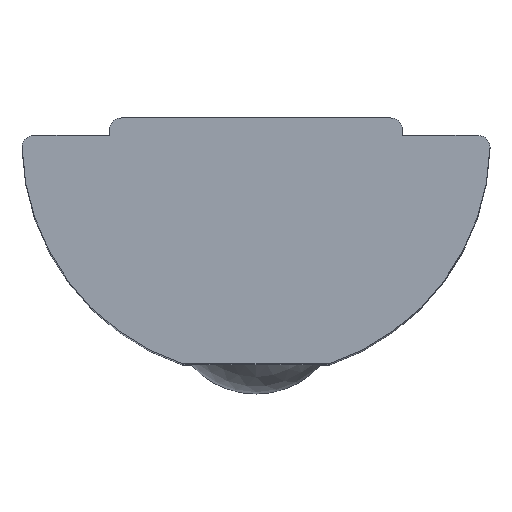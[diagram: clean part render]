
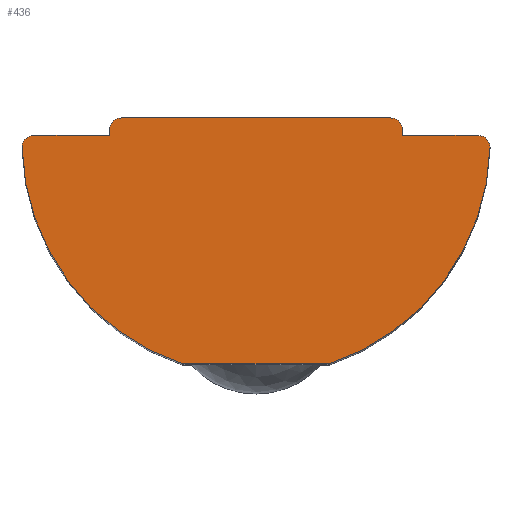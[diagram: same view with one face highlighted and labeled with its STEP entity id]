
A CAD part, top view. The second image highlights one B-rep face of the part: STEP entity #436.
In plain terms, the highlighted planar face has unit normal (0, 0, 1).
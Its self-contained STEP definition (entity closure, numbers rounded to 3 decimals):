
#1 = CARTESIAN_POINT ( 'NONE',  ( 2.5, 3.9, 6.9 ) ) ;
#5 = DIRECTION ( 'NONE',  ( 0., 0., 1. ) ) ;
#8 = ORIENTED_EDGE ( 'NONE', *, *, #633, .F. ) ;
#12 = CARTESIAN_POINT ( 'NONE',  ( 2.3, 4.2, 6.9 ) ) ;
#17 = CARTESIAN_POINT ( 'NONE',  ( -2.3, 4., 6.9 ) ) ;
#21 = EDGE_CURVE ( 'NONE', #198, #444, #187, .T. ) ;
#24 = VECTOR ( 'NONE', #652, 1000. ) ;
#25 = CIRCLE ( 'NONE', #677, 0.2 ) ;
#33 = DIRECTION ( 'NONE',  ( 0., 0., 1. ) ) ;
#34 = ORIENTED_EDGE ( 'NONE', *, *, #718, .T. ) ;
#36 = CARTESIAN_POINT ( 'NONE',  ( 2.5, 4., 6.9 ) ) ;
#38 = DIRECTION ( 'NONE',  ( 1., 0., 0. ) ) ;
#42 = DIRECTION ( 'NONE',  ( 0., 0., 1. ) ) ;
#46 = VECTOR ( 'NONE', #505, 1000. ) ;
#47 = CARTESIAN_POINT ( 'NONE',  ( -2.3, 4.2, 6.9 ) ) ;
#54 = CARTESIAN_POINT ( 'NONE',  ( -1.25, 0., 6.9 ) ) ;
#72 = CARTESIAN_POINT ( 'NONE',  ( 0., 3.9, 6.9 ) ) ;
#81 = VERTEX_POINT ( 'NONE', #199 ) ;
#88 = DIRECTION ( 'NONE',  ( 1., 0., 0. ) ) ;
#96 = CARTESIAN_POINT ( 'NONE',  ( -3.799, 3.7, 6.9 ) ) ;
#106 = VERTEX_POINT ( 'NONE', #184 ) ;
#109 = ORIENTED_EDGE ( 'NONE', *, *, #358, .T. ) ;
#115 = CARTESIAN_POINT ( 'NONE',  ( 0., 3.8, 6.9 ) ) ;
#137 = CARTESIAN_POINT ( 'NONE',  ( -2.5, 4., 6.9 ) ) ;
#148 = FACE_OUTER_BOUND ( 'NONE', #637, .T. ) ;
#162 = LINE ( 'NONE', #557, #46 ) ;
#169 = ORIENTED_EDGE ( 'NONE', *, *, #493, .T. ) ;
#177 = DIRECTION ( 'NONE',  ( 0., 0., 1. ) ) ;
#179 = CIRCLE ( 'NONE', #373, 4. ) ;
#183 = AXIS2_PLACEMENT_3D ( 'NONE', #17, #258, #577 ) ;
#184 = CARTESIAN_POINT ( 'NONE',  ( -2.5, 3.9, 6.9 ) ) ;
#187 = LINE ( 'NONE', #335, #361 ) ;
#196 = VECTOR ( 'NONE', #626, 1000. ) ;
#198 = VERTEX_POINT ( 'NONE', #54 ) ;
#199 = CARTESIAN_POINT ( 'NONE',  ( 3.999, 3.695, 6.9 ) ) ;
#204 = VERTEX_POINT ( 'NONE', #36 ) ;
#209 = LINE ( 'NONE', #243, #196 ) ;
#216 = VERTEX_POINT ( 'NONE', #12 ) ;
#218 = CARTESIAN_POINT ( 'NONE',  ( 1.25, 0., 6.9 ) ) ;
#238 = VERTEX_POINT ( 'NONE', #601 ) ;
#243 = CARTESIAN_POINT ( 'NONE',  ( 0., 4.2, 6.9 ) ) ;
#251 = CARTESIAN_POINT ( 'NONE',  ( -3.999, 3.7, 6.9 ) ) ;
#258 = DIRECTION ( 'NONE',  ( 0., 0., 1. ) ) ;
#266 = CIRCLE ( 'NONE', #340, 0.2 ) ;
#267 = ORIENTED_EDGE ( 'NONE', *, *, #269, .T. ) ;
#269 = EDGE_CURVE ( 'NONE', #498, #238, #545, .T. ) ;
#273 = CARTESIAN_POINT ( 'NONE',  ( 0., 0., 6.9 ) ) ;
#277 = DIRECTION ( 'NONE',  ( 1., 0., 0. ) ) ;
#289 = CARTESIAN_POINT ( 'NONE',  ( 2.5, 0., 6.9 ) ) ;
#297 = VECTOR ( 'NONE', #417, 1000. ) ;
#306 = CARTESIAN_POINT ( 'NONE',  ( 2.3, 4., 6.9 ) ) ;
#307 = LINE ( 'NONE', #289, #24 ) ;
#320 = CARTESIAN_POINT ( 'NONE',  ( -3.799, 3.7, 6.9 ) ) ;
#322 = EDGE_CURVE ( 'NONE', #698, #329, #369, .T. ) ;
#328 = DIRECTION ( 'NONE',  ( 1., 0., 0. ) ) ;
#329 = VERTEX_POINT ( 'NONE', #137 ) ;
#334 = PLANE ( 'NONE',  #686 ) ;
#335 = CARTESIAN_POINT ( 'NONE',  ( 0., 0., 6.9 ) ) ;
#337 = VERTEX_POINT ( 'NONE', #628 ) ;
#340 = AXIS2_PLACEMENT_3D ( 'NONE', #320, #614, #679 ) ;
#356 = LINE ( 'NONE', #521, #654 ) ;
#358 = EDGE_CURVE ( 'NONE', #692, #364, #400, .T. ) ;
#361 = VECTOR ( 'NONE', #328, 1000. ) ;
#364 = VERTEX_POINT ( 'NONE', #1 ) ;
#367 = ORIENTED_EDGE ( 'NONE', *, *, #398, .T. ) ;
#369 = CIRCLE ( 'NONE', #183, 0.2 ) ;
#373 = AXIS2_PLACEMENT_3D ( 'NONE', #115, #527, #88 ) ;
#386 = DIRECTION ( 'NONE',  ( 1., 0., 0. ) ) ;
#388 = EDGE_CURVE ( 'NONE', #337, #498, #266, .T. ) ;
#394 = DIRECTION ( 'NONE',  ( 1., 0., 0. ) ) ;
#398 = EDGE_CURVE ( 'NONE', #216, #698, #209, .T. ) ;
#400 = LINE ( 'NONE', #72, #297 ) ;
#417 = DIRECTION ( 'NONE',  ( -1., 0., 0. ) ) ;
#419 = EDGE_CURVE ( 'NONE', #444, #81, #179, .T. ) ;
#429 = ORIENTED_EDGE ( 'NONE', *, *, #566, .T. ) ;
#436 = ADVANCED_FACE ( 'NONE', ( #148 ), #334, .T. ) ;
#437 = CARTESIAN_POINT ( 'NONE',  ( 0., 3.8, 6.9 ) ) ;
#442 = ORIENTED_EDGE ( 'NONE', *, *, #707, .T. ) ;
#444 = VERTEX_POINT ( 'NONE', #218 ) ;
#453 = CIRCLE ( 'NONE', #631, 0.2 ) ;
#461 = ORIENTED_EDGE ( 'NONE', *, *, #388, .T. ) ;
#493 = EDGE_CURVE ( 'NONE', #81, #692, #25, .T. ) ;
#497 = ORIENTED_EDGE ( 'NONE', *, *, #21, .T. ) ;
#498 = VERTEX_POINT ( 'NONE', #251 ) ;
#504 = CARTESIAN_POINT ( 'NONE',  ( 3.799, 3.9, 6.9 ) ) ;
#505 = DIRECTION ( 'NONE',  ( 1., 0., 0. ) ) ;
#516 = CARTESIAN_POINT ( 'NONE',  ( 3.799, 3.7, 6.9 ) ) ;
#521 = CARTESIAN_POINT ( 'NONE',  ( -2.5, 0., 6.9 ) ) ;
#522 = ORIENTED_EDGE ( 'NONE', *, *, #691, .F. ) ;
#527 = DIRECTION ( 'NONE',  ( 0., 0., 1. ) ) ;
#537 = CIRCLE ( 'NONE', #578, 4. ) ;
#545 = CIRCLE ( 'NONE', #666, 0.2 ) ;
#557 = CARTESIAN_POINT ( 'NONE',  ( 0., 3.9, 6.9 ) ) ;
#566 = EDGE_CURVE ( 'NONE', #204, #216, #453, .T. ) ;
#577 = DIRECTION ( 'NONE',  ( 1., 0., 0. ) ) ;
#578 = AXIS2_PLACEMENT_3D ( 'NONE', #437, #42, #394 ) ;
#579 = DIRECTION ( 'NONE',  ( 0., 0., 1. ) ) ;
#601 = CARTESIAN_POINT ( 'NONE',  ( -3.999, 3.695, 6.9 ) ) ;
#612 = DIRECTION ( 'NONE',  ( 0., 1., 0. ) ) ;
#614 = DIRECTION ( 'NONE',  ( 0., 0., 1. ) ) ;
#626 = DIRECTION ( 'NONE',  ( -1., 0., 0. ) ) ;
#628 = CARTESIAN_POINT ( 'NONE',  ( -3.799, 3.9, 6.9 ) ) ;
#631 = AXIS2_PLACEMENT_3D ( 'NONE', #306, #33, #386 ) ;
#633 = EDGE_CURVE ( 'NONE', #106, #329, #356, .T. ) ;
#637 = EDGE_LOOP ( 'NONE', ( #367, #681, #8, #522, #461, #267, #442, #497, #697, #169, #109, #34, #429 ) ) ;
#652 = DIRECTION ( 'NONE',  ( 0., 1., 0. ) ) ;
#654 = VECTOR ( 'NONE', #612, 1000. ) ;
#665 = DIRECTION ( 'NONE',  ( 1., 0., 0. ) ) ;
#666 = AXIS2_PLACEMENT_3D ( 'NONE', #96, #177, #277 ) ;
#677 = AXIS2_PLACEMENT_3D ( 'NONE', #516, #5, #665 ) ;
#679 = DIRECTION ( 'NONE',  ( 1., 0., 0. ) ) ;
#681 = ORIENTED_EDGE ( 'NONE', *, *, #322, .T. ) ;
#686 = AXIS2_PLACEMENT_3D ( 'NONE', #273, #579, #38 ) ;
#691 = EDGE_CURVE ( 'NONE', #337, #106, #162, .T. ) ;
#692 = VERTEX_POINT ( 'NONE', #504 ) ;
#697 = ORIENTED_EDGE ( 'NONE', *, *, #419, .T. ) ;
#698 = VERTEX_POINT ( 'NONE', #47 ) ;
#707 = EDGE_CURVE ( 'NONE', #238, #198, #537, .T. ) ;
#718 = EDGE_CURVE ( 'NONE', #364, #204, #307, .T. ) ;
